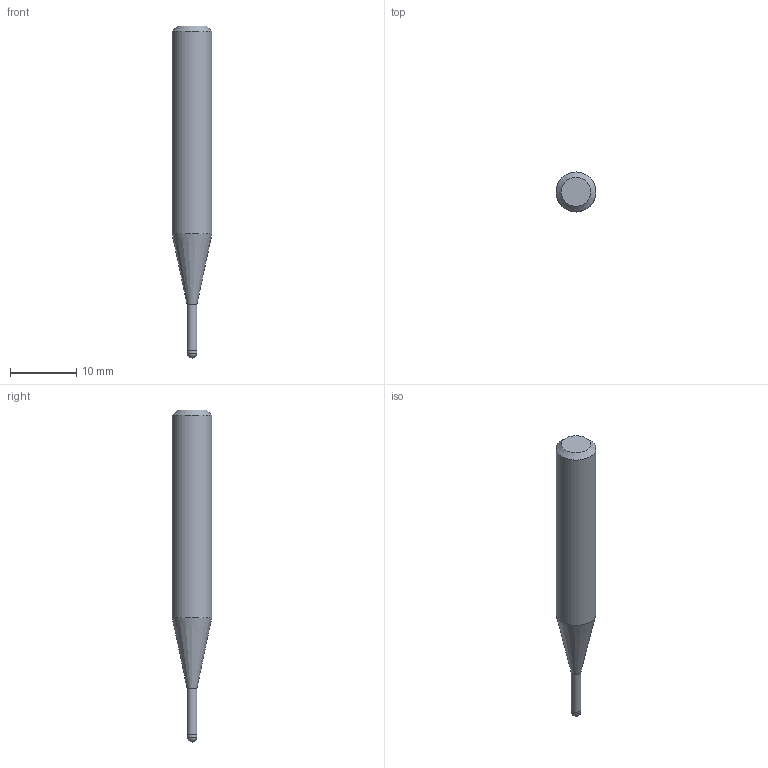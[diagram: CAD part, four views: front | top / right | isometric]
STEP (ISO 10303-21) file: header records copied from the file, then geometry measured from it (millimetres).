
FILE_DESCRIPTION((''),'2;1');
FILE_NAME('C:\Users\nsx150\AppData\Local\Temp\Mastercam 2021\3SYKECWX22\TEMP.step','2021-04-22T10:03:18',(''),(''),'STEP Write','Mastercam 2021 ... CNC Software, Inc.','');
FILE_SCHEMA(('AUTOMOTIVE_DESIGN'));
Length unit declared in the file: millimetre
Products named in the file (1): None
Bounding box: 6 x 6 x 50 mm (x, y, z)
Volume: 1023.4 mm3; surface area: 776.6 mm2
Topology: 2 solids, 2 shells, 9 faces, 14 edges, 8 vertices
Faces by surface type: plane 3, cylinder 3, cone 2, sphere 1
Full cylindrical faces by diameter (mm): 1.45 x1, 1.5 x1, 6 x1
Entity records: 211 total; most frequent: DIRECTION 36, CARTESIAN_POINT 25, AXIS2_PLACEMENT_3D 18, ORIENTED_EDGE 14, EDGE_LOOP 14, STYLED_ITEM 12, ADVANCED_FACE 9, FACE_BOUND 8
